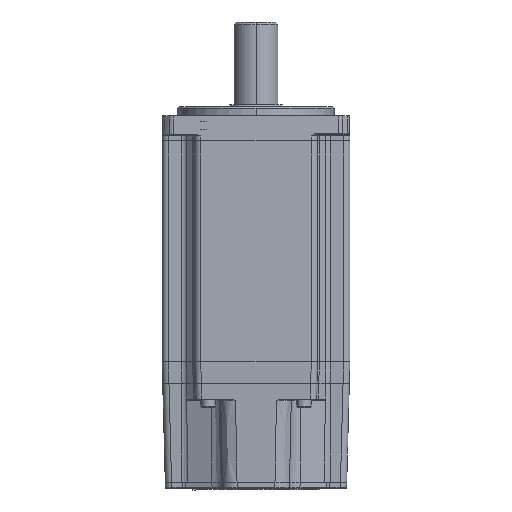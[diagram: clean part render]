
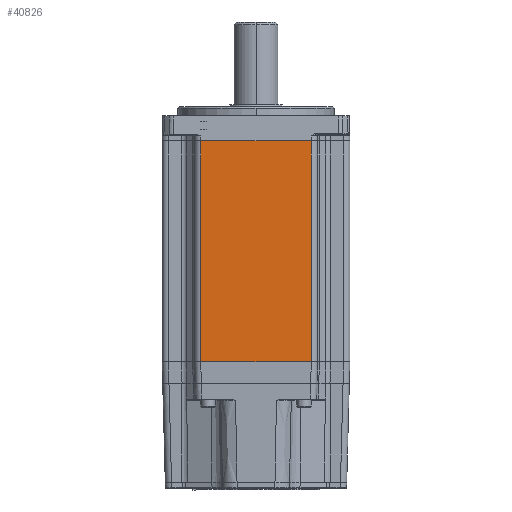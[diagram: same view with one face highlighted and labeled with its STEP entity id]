
A CAD part, front view. The second image highlights one B-rep face of the part: STEP entity #40826.
In plain terms, the highlighted planar face has unit normal (0, -1, 0).
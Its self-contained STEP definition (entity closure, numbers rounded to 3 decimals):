
#1000 = CARTESIAN_POINT ( 'NONE',  ( 0., -30., 34.347 ) ) ;
#4216 = FACE_OUTER_BOUND ( 'NONE', #38700, .T. ) ;
#9347 = DIRECTION ( 'NONE',  ( 0., 1., 0. ) ) ;
#11286 = ORIENTED_EDGE ( 'NONE', *, *, #37699, .T. ) ;
#11487 = DIRECTION ( 'NONE',  ( 1., 0., 0. ) ) ;
#13678 = CARTESIAN_POINT ( 'NONE',  ( -17.65, -30., -36.153 ) ) ;
#14691 = VECTOR ( 'NONE', #35760, 1000. ) ;
#15252 = LINE ( 'NONE', #37407, #19378 ) ;
#16762 = DIRECTION ( 'NONE',  ( 0., 0., -1. ) ) ;
#16894 = VERTEX_POINT ( 'NONE', #40869 ) ;
#18235 = PLANE ( 'NONE',  #41242 ) ;
#18796 = LINE ( 'NONE', #44452, #14691 ) ;
#18884 = VECTOR ( 'NONE', #49523, 1000. ) ;
#19378 = VECTOR ( 'NONE', #11487, 1000. ) ;
#22016 = VECTOR ( 'NONE', #16762, 1000. ) ;
#27206 = VERTEX_POINT ( 'NONE', #48032 ) ;
#27671 = EDGE_CURVE ( 'NONE', #55640, #28226, #15252, .T. ) ;
#28085 = EDGE_CURVE ( 'NONE', #16894, #55640, #44973, .T. ) ;
#28209 = CARTESIAN_POINT ( 'NONE',  ( 17.65, -30., 34.347 ) ) ;
#28226 = VERTEX_POINT ( 'NONE', #43734 ) ;
#35760 = DIRECTION ( 'NONE',  ( 1., 0., 0. ) ) ;
#37407 = CARTESIAN_POINT ( 'NONE',  ( 0., -30., -36.153 ) ) ;
#37699 = EDGE_CURVE ( 'NONE', #28226, #27206, #39125, .T. ) ;
#37719 = ORIENTED_EDGE ( 'NONE', *, *, #43869, .F. ) ;
#38700 = EDGE_LOOP ( 'NONE', ( #41302, #11286, #37719, #45334 ) ) ;
#39125 = LINE ( 'NONE', #28209, #18884 ) ;
#40826 = ADVANCED_FACE ( 'NONE', ( #4216 ), #18235, .F. ) ;
#40869 = CARTESIAN_POINT ( 'NONE',  ( -17.65, -30., 34.347 ) ) ;
#41242 = AXIS2_PLACEMENT_3D ( 'NONE', #1000, #9347, #48421 ) ;
#41302 = ORIENTED_EDGE ( 'NONE', *, *, #27671, .T. ) ;
#43734 = CARTESIAN_POINT ( 'NONE',  ( 17.65, -30., -36.153 ) ) ;
#43869 = EDGE_CURVE ( 'NONE', #16894, #27206, #18796, .T. ) ;
#44452 = CARTESIAN_POINT ( 'NONE',  ( 0., -30., 34.347 ) ) ;
#44973 = LINE ( 'NONE', #51090, #22016 ) ;
#45334 = ORIENTED_EDGE ( 'NONE', *, *, #28085, .T. ) ;
#48032 = CARTESIAN_POINT ( 'NONE',  ( 17.65, -30., 34.347 ) ) ;
#48421 = DIRECTION ( 'NONE',  ( 0., 0., 1. ) ) ;
#49523 = DIRECTION ( 'NONE',  ( 0., 0., 1. ) ) ;
#51090 = CARTESIAN_POINT ( 'NONE',  ( -17.65, -30., 34.347 ) ) ;
#55640 = VERTEX_POINT ( 'NONE', #13678 ) ;
